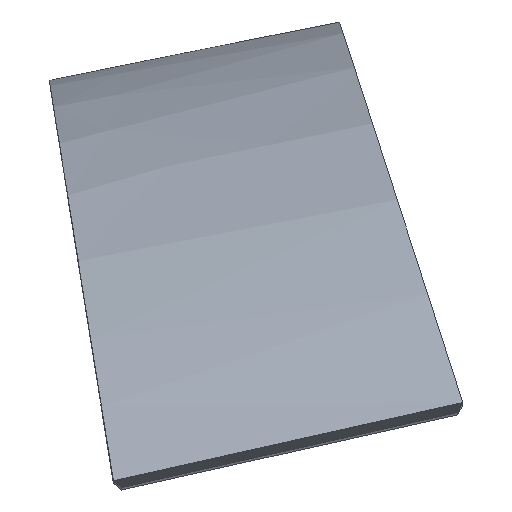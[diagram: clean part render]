
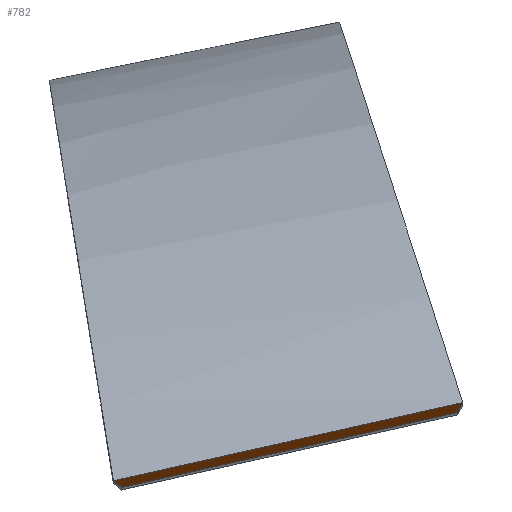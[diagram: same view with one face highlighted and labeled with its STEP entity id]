
A CAD part, top view. The second image highlights one B-rep face of the part: STEP entity #782.
In plain terms, the highlighted free-form (B-spline) face has degree [1, 3] with [2, 4] control points.
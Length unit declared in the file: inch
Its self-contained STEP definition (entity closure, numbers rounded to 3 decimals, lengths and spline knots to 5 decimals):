
#11 = CARTESIAN_POINT ( 'NONE',  ( 16.34755, -100.82914, 30.75827 ) ) ;
#75 = ORIENTED_EDGE ( 'NONE', *, *, #848, .T. ) ;
#90 = CARTESIAN_POINT ( 'NONE',  ( 31.44357, -97.19525, 30.76803 ) ) ;
#105 = CARTESIAN_POINT ( 'NONE',  ( 15.97902, -100.5265, 31.41557 ) ) ;
#200 = CARTESIAN_POINT ( 'NONE',  ( 15.97902, -100.5265, 31.41557 ) ) ;
#223 = ORIENTED_EDGE ( 'NONE', *, *, #244, .F. ) ;
#244 = EDGE_CURVE ( 'NONE', #1934, #992, #406, .T. ) ;
#372 = CARTESIAN_POINT ( 'NONE',  ( 16.2247, -100.72824, 30.97736 ) ) ;
#396 = FACE_OUTER_BOUND ( 'NONE', #1012, .T. ) ;
#406 = B_SPLINE_CURVE_WITH_KNOTS ( 'NONE', 3,
 ( #105, #1862, #2448, #1286 ),
 .UNSPECIFIED., .F., .F.,
 ( 4, 4 ),
 ( 0., 1. ),
 .UNSPECIFIED. ) ;
#408 = CARTESIAN_POINT ( 'NONE',  ( 21.22534, -99.73852, 30.62239 ) ) ;
#579 = CARTESIAN_POINT ( 'NONE',  ( 26.34168, -98.20763, 31.12582 ) ) ;
#672 = CARTESIAN_POINT ( 'NONE',  ( 26.30565, -98.60261, 30.48088 ) ) ;
#724 = CARTESIAN_POINT ( 'NONE',  ( 31.2847, -97.48934, 30.34218 ) ) ;
#782 = ADVANCED_FACE ( 'NONE', ( #396 ), #2345, .T. ) ;
#791 = CARTESIAN_POINT ( 'NONE',  ( 31.523, -97.04817, 30.98094 ) ) ;
#841 = CARTESIAN_POINT ( 'NONE',  ( 21.3266, -99.71588, 30.61957 ) ) ;
#848 = EDGE_CURVE ( 'NONE', #1934, #979, #1970, .T. ) ;
#877 = VERTEX_POINT ( 'NONE', #959 ) ;
#892 = ORIENTED_EDGE ( 'NONE', *, *, #1753, .T. ) ;
#959 = CARTESIAN_POINT ( 'NONE',  ( 31.2847, -97.48934, 30.34218 ) ) ;
#971 = B_SPLINE_CURVE_WITH_KNOTS ( 'NONE', 3,
 ( #724, #1802, #90, #2239 ),
 .UNSPECIFIED., .F., .F.,
 ( 4, 4 ),
 ( 0., 1. ),
 .UNSPECIFIED. ) ;
#979 = VERTEX_POINT ( 'NONE', #11 ) ;
#992 = VERTEX_POINT ( 'NONE', #791 ) ;
#1012 = EDGE_LOOP ( 'NONE', ( #223, #75, #892, #1449 ) ) ;
#1152 = CARTESIAN_POINT ( 'NONE',  ( 16.10186, -100.62736, 31.19646 ) ) ;
#1165 = CARTESIAN_POINT ( 'NONE',  ( 15.97902, -100.5265, 31.41557 ) ) ;
#1286 = CARTESIAN_POINT ( 'NONE',  ( 31.523, -97.04817, 30.98094 ) ) ;
#1338 = CARTESIAN_POINT ( 'NONE',  ( 16.0438, -100.89706, 30.76673 ) ) ;
#1429 = CARTESIAN_POINT ( 'NONE',  ( 31.2847, -97.48934, 30.34218 ) ) ;
#1449 = ORIENTED_EDGE ( 'NONE', *, *, #2475, .T. ) ;
#1565 = CARTESIAN_POINT ( 'NONE',  ( 16.34755, -100.82914, 30.75827 ) ) ;
#1692 = CARTESIAN_POINT ( 'NONE',  ( 31.58843, -97.42144, 30.33372 ) ) ;
#1714 = CARTESIAN_POINT ( 'NONE',  ( 31.523, -97.04817, 30.98094 ) ) ;
#1753 = EDGE_CURVE ( 'NONE', #979, #877, #2066, .T. ) ;
#1802 = CARTESIAN_POINT ( 'NONE',  ( 31.36414, -97.34231, 30.55511 ) ) ;
#1862 = CARTESIAN_POINT ( 'NONE',  ( 21.16035, -99.36707, 31.2707 ) ) ;
#1898 = CARTESIAN_POINT ( 'NONE',  ( 16.34755, -100.82914, 30.75827 ) ) ;
#1934 = VERTEX_POINT ( 'NONE', #1992 ) ;
#1970 = B_SPLINE_CURVE_WITH_KNOTS ( 'NONE', 3,
 ( #1165, #1152, #372, #1898 ),
 .UNSPECIFIED., .F., .F.,
 ( 4, 4 ),
 ( 0., 1. ),
 .UNSPECIFIED. ) ;
#1992 = CARTESIAN_POINT ( 'NONE',  ( 15.97902, -100.5265, 31.41557 ) ) ;
#2066 = B_SPLINE_CURVE_WITH_KNOTS ( 'NONE', 3,
 ( #1565, #841, #672, #1429 ),
 .UNSPECIFIED., .F., .F.,
 ( 4, 4 ),
 ( 0.01954, 0.98046 ),
 .UNSPECIFIED. ) ;
#2086 = CARTESIAN_POINT ( 'NONE',  ( 26.40689, -98.57998, 30.47806 ) ) ;
#2239 = CARTESIAN_POINT ( 'NONE',  ( 31.523, -97.04817, 30.98094 ) ) ;
#2345 = B_SPLINE_SURFACE_WITH_KNOTS ( 'NONE', 1, 3, ( 
 ( #200, #2462, #579, #1714 ),
 ( #1338, #408, #2086, #1692 ) ),
 .UNSPECIFIED., .F., .F., .F.,
 ( 2, 2 ),
 ( 4, 4 ),
 ( 0., 1. ),
 ( -0.20237, 0.20237 ),
 .UNSPECIFIED. ) ;
#2448 = CARTESIAN_POINT ( 'NONE',  ( 26.34168, -98.20763, 31.12582 ) ) ;
#2462 = CARTESIAN_POINT ( 'NONE',  ( 21.16035, -99.36707, 31.2707 ) ) ;
#2475 = EDGE_CURVE ( 'NONE', #877, #992, #971, .T. ) ;
